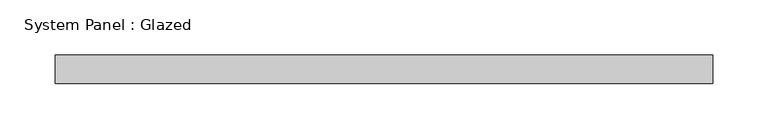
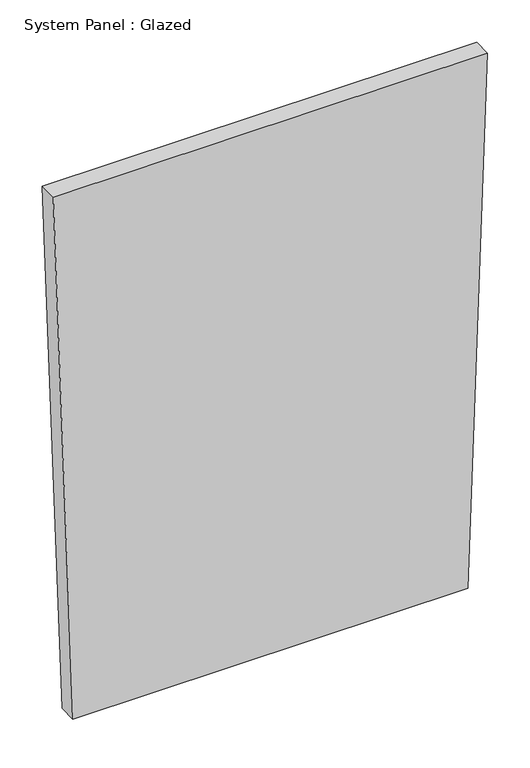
"""IFC4 building model written with IfcOpenShell, lengths in millimetres: plate geometry, System Panel : Glazed."""

from ifc_helpers import new_model, si_unit, frame, origin, place, context, project, spatial, polyline, outline, extrude, source, transform, mapped, element, save


def system_panel_glazed_9aa37749(model_context):
    return source(origin(), model_context, "Body", "SweptSolid", [
        extrude(outline(polyline([(0.0, -269.3344344), (0.0, 269.3344344), (761.5238602, 296.2678778), (761.5238602, -296.2678778), (0.0, -269.3344344)])), frame((0.0, -44.45, 0.0), z_axis=(0.0, 1.0, 0.0), x_axis=(0.0, 0.0, 1.0)), (0.0, 0.0, 1.0), 25.4),
    ])


if __name__ == "__main__":
    model = new_model("IFC4")
    model_context = context("Model", 3, world=origin())
    ifc_project = project(units=[si_unit("LENGTHUNIT", "METRE", prefix="MILLI")], contexts=[model_context])
    site = spatial("IfcSite", under=ifc_project)
    building = spatial("IfcBuilding", under=site)
    placement = place(None, origin())
    system_panel_glazed_shape = system_panel_glazed_9aa37749(model_context)
    element("IfcPlate", 1, ObjectType="System Panel : Glazed", at=placement, inside=building, context=model_context, shape_type="MappedRepresentation", body=[
        mapped(system_panel_glazed_shape, transform((0.0, 0.0, 0.0), x_axis=(1.0, 0.0, 0.0), y_axis=(0.0, 1.0, 0.0), z_axis=(0.0, 0.0, 1.0))),
    ])
    save(model, "model.ifc")
